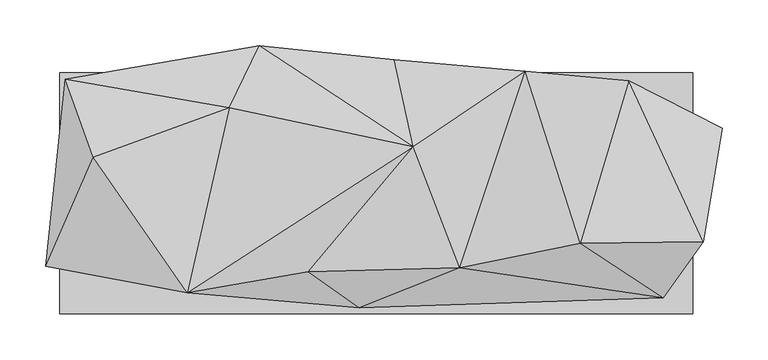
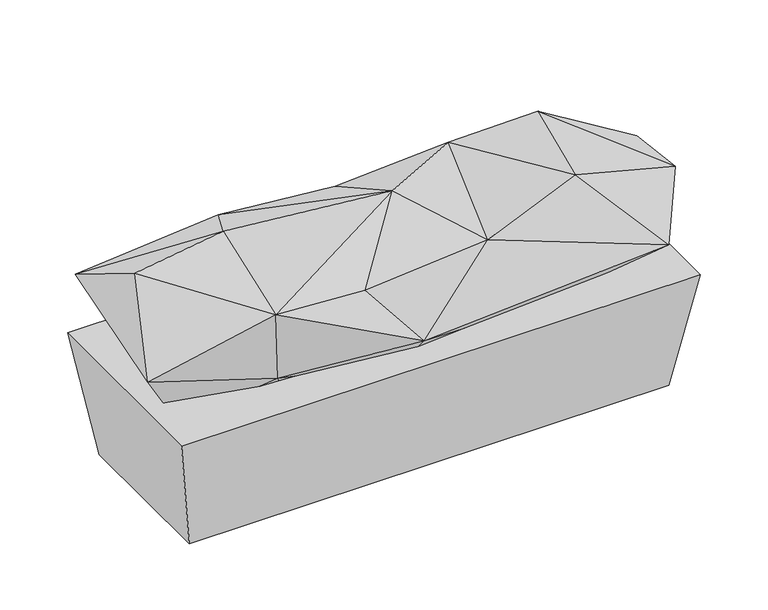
"""IFC4 building model written with IfcOpenShell, lengths in millimetres: geographic element geometry, Enscape AssetDefinition - Potted Plant 099 Geranium Planter : Enscape AssetDefinition - Potted Plant 099 Geranium Planter."""

from ifc_helpers import new_model, si_unit, origin, place, context, project, spatial, triangles, source, transform, mapped, element, save


def geographic_element_bdc61dde(model_context):
    return source(origin(), model_context, "Body", "Tessellation", [
        triangles([(-360.3867597, -79.7096877, 227.4610979), (-339.0196773, 124.221769, 248.4946614), (-281.7959899, -13.5131253, 102.4512229), (-290.290148, 55.7120563, 138.9049207), (-190.6335129, -85.3338811, 176.7492223), (-136.5621858, -11.0950725, 91.3292546), (-112.7608952, 69.1633201, 115.5070938), (18.4003372, -10.3365727, 79.9598268), (19.3901523, 145.4920368, 233.5963157), (-160.3231174, 92.9430823, 265.213917), (40.1224692, 50.5558712, 277.8017933), (-127.5866072, 160.6593251, 236.0358833), (-206.3548825, -108.3739718, 285.8547719), (-74.2119082, -85.8852736, 260.1626265), (-308.8195584, 39.2617614, 290.7635203), (-18.3653704, -124.9372323, 193.732052), (222.5819625, -54.6603763, 300.0000023), (91.0199439, -81.54138, 270.6686349), (162.3135119, 133.2000364, 253.1236485), (313.1311775, -113.8583028, 205.8599818), (297.555057, 12.4614475, 108.0431417), (275.1228144, 122.46539, 263.3741674), (356.8309447, -52.7695034, 263.4144992), (179.2614055, -30.3803245, 114.135348), (377.2055368, 70.8094224, 224.2441794), (239.207056, 98.7313464, 163.6933332), (130.5963981, 60.6718871, 119.8536672), (345.0661469, -131.5270371, 163.3248419), (-318.7015861, -103.5889805, 0.0), (345.0661469, 131.5270371, 163.3248419), (318.7015861, -103.5889805, 0.0), (-345.0661469, -131.5270371, 163.3248419), (318.7015861, 103.5889805, 0.0), (-318.7015861, 103.5889805, 0.0), (-345.0661469, 131.5270371, 163.3248419)], [[33, 30, 28], [31, 28, 32], [34, 35, 30], [29, 32, 35], [28, 30, 35], [34, 33, 31], [33, 28, 31], [31, 32, 29], [34, 30, 33], [29, 35, 34], [28, 35, 32], [34, 31, 29], [22, 26, 19], [19, 26, 27], [25, 26, 22], [26, 24, 27], [21, 24, 26], [25, 21, 26], [23, 21, 25], [22, 23, 25], [19, 17, 22], [17, 23, 22], [23, 20, 21], [21, 20, 24], [17, 20, 23], [16, 24, 20], [18, 17, 19], [20, 17, 18], [16, 20, 18], [14, 16, 18], [13, 16, 14], [15, 13, 10], [15, 10, 2], [11, 18, 19], [14, 18, 11], [13, 11, 10], [13, 14, 11], [10, 11, 12], [10, 12, 2], [19, 9, 11], [12, 11, 9], [19, 27, 9], [8, 27, 24], [27, 8, 9], [8, 24, 16], [8, 7, 9], [9, 7, 12], [7, 2, 12], [8, 6, 7], [8, 5, 6], [5, 8, 16], [16, 13, 5], [5, 3, 6], [7, 4, 2], [6, 4, 7], [6, 3, 4], [13, 1, 5], [3, 1, 4], [15, 1, 13], [1, 3, 5], [2, 1, 15], [1, 2, 4]]),
    ])


if __name__ == "__main__":
    model = new_model("IFC4")
    model_context = context("Model", 3, world=origin())
    ifc_project = project(units=[si_unit("LENGTHUNIT", "METRE", prefix="MILLI")], contexts=[model_context])
    site = spatial("IfcSite", under=ifc_project)
    building = spatial("IfcBuilding", under=site)
    placement = place(None, origin())
    geographic_element_shape = geographic_element_bdc61dde(model_context)
    element("IfcGeographicElement", 1, ObjectType="Enscape AssetDefinition - Potted Plant 099 Geranium Planter : Enscape AssetDefinition - Potted Plant 099 Geranium Planter", at=placement, inside=building, context=model_context, shape_type="MappedRepresentation", body=[
        mapped(geographic_element_shape, transform((0.0, 0.0, 0.0), x_axis=(1.0, 0.0, 0.0), y_axis=(0.0, 1.0, 0.0), z_axis=(0.0, 0.0, 1.0))),
    ])
    save(model, "model.ifc")
